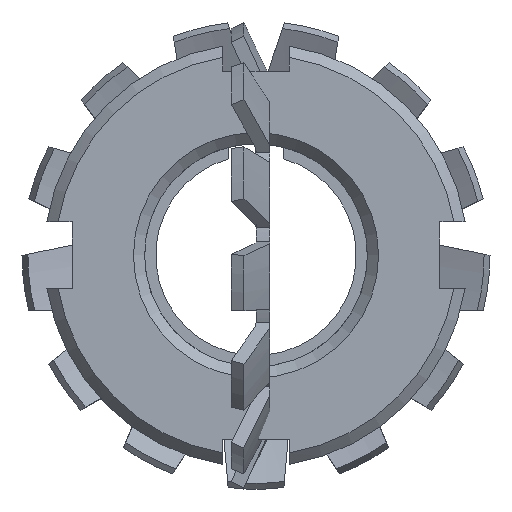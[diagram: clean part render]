
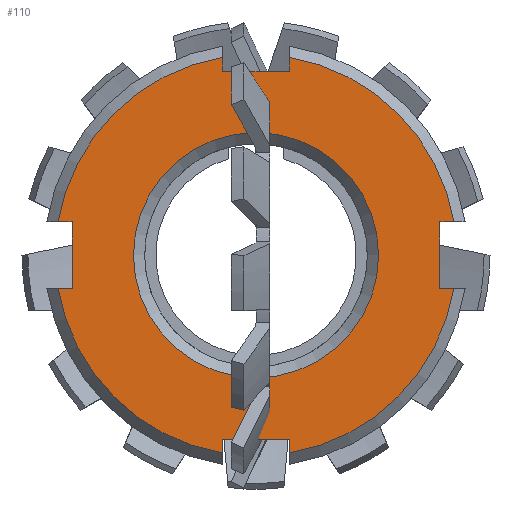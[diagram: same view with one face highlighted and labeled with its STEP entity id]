
A CAD part, front view. The second image highlights one B-rep face of the part: STEP entity #110.
In plain terms, the highlighted planar face has unit normal (0, -1, 0).
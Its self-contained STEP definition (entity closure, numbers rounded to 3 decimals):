
#110 = ADVANCED_FACE( '', ( #225, #226 ), #227, .F. );
#225 = FACE_BOUND( '', #355, .T. );
#226 = FACE_OUTER_BOUND( '', #356, .T. );
#227 = PLANE( '', #357 );
#355 = EDGE_LOOP( '', ( #655 ) );
#356 = EDGE_LOOP( '', ( #656, #657, #658, #659, #660, #661, #662, #663, #664, #665, #666, #667, #668, #669, #670, #671 ) );
#357 = AXIS2_PLACEMENT_3D( '', #672, #673, #674 );
#655 = ORIENTED_EDGE( '', *, *, #1065, .F. );
#656 = ORIENTED_EDGE( '', *, *, #1086, .F. );
#657 = ORIENTED_EDGE( '', *, *, #1058, .T. );
#658 = ORIENTED_EDGE( '', *, *, #1013, .T. );
#659 = ORIENTED_EDGE( '', *, *, #1087, .T. );
#660 = ORIENTED_EDGE( '', *, *, #1088, .F. );
#661 = ORIENTED_EDGE( '', *, *, #1047, .T. );
#662 = ORIENTED_EDGE( '', *, *, #1019, .T. );
#663 = ORIENTED_EDGE( '', *, *, #1035, .T. );
#664 = ORIENTED_EDGE( '', *, *, #1040, .F. );
#665 = ORIENTED_EDGE( '', *, *, #1089, .T. );
#666 = ORIENTED_EDGE( '', *, *, #1067, .T. );
#667 = ORIENTED_EDGE( '', *, *, #1045, .T. );
#668 = ORIENTED_EDGE( '', *, *, #1090, .F. );
#669 = ORIENTED_EDGE( '', *, *, #1091, .T. );
#670 = ORIENTED_EDGE( '', *, *, #1092, .T. );
#671 = ORIENTED_EDGE( '', *, *, #1093, .T. );
#672 = CARTESIAN_POINT( '', ( 0., -7.75, 19. ) );
#673 = DIRECTION( '', ( 0., 1., 0. ) );
#674 = DIRECTION( '', ( 0., 0., 1. ) );
#1013 = EDGE_CURVE( '', #1317, #1315, #1318, .T. );
#1019 = EDGE_CURVE( '', #1328, #1326, #1329, .T. );
#1035 = EDGE_CURVE( '', #1326, #1353, #1355, .F. );
#1040 = EDGE_CURVE( '', #1361, #1353, #1363, .T. );
#1045 = EDGE_CURVE( '', #1366, #1370, #1372, .F. );
#1047 = EDGE_CURVE( '', #1374, #1328, #1375, .T. );
#1058 = EDGE_CURVE( '', #1392, #1317, #1393, .T. );
#1065 = EDGE_CURVE( '', #1402, #1402, #1403, .T. );
#1067 = EDGE_CURVE( '', #1405, #1366, #1406, .T. );
#1086 = EDGE_CURVE( '', #1392, #1435, #1436, .T. );
#1087 = EDGE_CURVE( '', #1315, #1437, #1438, .F. );
#1088 = EDGE_CURVE( '', #1374, #1437, #1439, .T. );
#1089 = EDGE_CURVE( '', #1361, #1405, #1440, .T. );
#1090 = EDGE_CURVE( '', #1441, #1370, #1442, .T. );
#1091 = EDGE_CURVE( '', #1441, #1443, #1444, .T. );
#1092 = EDGE_CURVE( '', #1443, #1445, #1446, .T. );
#1093 = EDGE_CURVE( '', #1445, #1435, #1447, .F. );
#1315 = VERTEX_POINT( '', #2251 );
#1317 = VERTEX_POINT( '', #2256 );
#1318 = LINE( '', #2257, #2258 );
#1326 = VERTEX_POINT( '', #2271 );
#1328 = VERTEX_POINT( '', #2276 );
#1329 = LINE( '', #2277, #2278 );
#1353 = VERTEX_POINT( '', #2312 );
#1355 = CIRCLE( '', #2317, 18. );
#1361 = VERTEX_POINT( '', #2327 );
#1363 = LINE( '', #2330, #2331 );
#1366 = VERTEX_POINT( '', #2334 );
#1370 = VERTEX_POINT( '', #2341 );
#1372 = CIRCLE( '', #2346, 18. );
#1374 = VERTEX_POINT( '', #2348 );
#1375 = LINE( '', #2349, #2350 );
#1392 = VERTEX_POINT( '', #2378 );
#1393 = LINE( '', #2379, #2380 );
#1402 = VERTEX_POINT( '', #2397 );
#1403 = CIRCLE( '', #2398, 11. );
#1405 = VERTEX_POINT( '', #2400 );
#1406 = LINE( '', #2401, #2402 );
#1435 = VERTEX_POINT( '', #2465 );
#1436 = LINE( '', #2466, #2467 );
#1437 = VERTEX_POINT( '', #2468 );
#1438 = CIRCLE( '', #2469, 18. );
#1439 = LINE( '', #2470, #2471 );
#1440 = LINE( '', #2472, #2473 );
#1441 = VERTEX_POINT( '', #2474 );
#1442 = LINE( '', #2475, #2476 );
#1443 = VERTEX_POINT( '', #2477 );
#1444 = LINE( '', #2478, #2479 );
#1445 = VERTEX_POINT( '', #2480 );
#1446 = LINE( '', #2481, #2482 );
#1447 = CIRCLE( '', #2483, 18. );
#2251 = CARTESIAN_POINT( '', ( -17.748, -7.75, -3. ) );
#2256 = CARTESIAN_POINT( '', ( -16.5, -7.75, -3. ) );
#2257 = CARTESIAN_POINT( '', ( -19., -7.75, -3. ) );
#2258 = VECTOR( '', #2816, 1000. );
#2271 = CARTESIAN_POINT( '', ( 3., -7.75, -17.748 ) );
#2276 = CARTESIAN_POINT( '', ( 3., -7.75, -16.5 ) );
#2277 = CARTESIAN_POINT( '', ( 3., -7.75, -19. ) );
#2278 = VECTOR( '', #2819, 1000. );
#2312 = CARTESIAN_POINT( '', ( 17.748, -7.75, -3. ) );
#2317 = AXIS2_PLACEMENT_3D( '', #2836, #2837, #2838 );
#2327 = CARTESIAN_POINT( '', ( 16.5, -7.75, -3. ) );
#2330 = CARTESIAN_POINT( '', ( 19., -7.75, -3. ) );
#2331 = VECTOR( '', #2841, 1000. );
#2334 = CARTESIAN_POINT( '', ( 17.748, -7.75, 3. ) );
#2341 = CARTESIAN_POINT( '', ( 3., -7.75, 17.748 ) );
#2346 = AXIS2_PLACEMENT_3D( '', #2845, #2846, #2847 );
#2348 = CARTESIAN_POINT( '', ( -3., -7.75, -16.5 ) );
#2349 = CARTESIAN_POINT( '', ( -3., -7.75, -16.5 ) );
#2350 = VECTOR( '', #2848, 1000. );
#2378 = CARTESIAN_POINT( '', ( -16.5, -7.75, 3. ) );
#2379 = CARTESIAN_POINT( '', ( -16.5, -7.75, 3. ) );
#2380 = VECTOR( '', #2862, 1000. );
#2397 = CARTESIAN_POINT( '', ( 0., -7.75, -11. ) );
#2398 = AXIS2_PLACEMENT_3D( '', #2870, #2871, #2872 );
#2400 = CARTESIAN_POINT( '', ( 16.5, -7.75, 3. ) );
#2401 = CARTESIAN_POINT( '', ( 19., -7.75, 3. ) );
#2402 = VECTOR( '', #2873, 1000. );
#2465 = CARTESIAN_POINT( '', ( -17.748, -7.75, 3. ) );
#2466 = CARTESIAN_POINT( '', ( -19., -7.75, 3. ) );
#2467 = VECTOR( '', #2888, 1000. );
#2468 = CARTESIAN_POINT( '', ( -3., -7.75, -17.748 ) );
#2469 = AXIS2_PLACEMENT_3D( '', #2889, #2890, #2891 );
#2470 = CARTESIAN_POINT( '', ( -3., -7.75, -19. ) );
#2471 = VECTOR( '', #2892, 1000. );
#2472 = CARTESIAN_POINT( '', ( 16.5, -7.75, -3. ) );
#2473 = VECTOR( '', #2893, 1000. );
#2474 = CARTESIAN_POINT( '', ( 3., -7.75, 16.5 ) );
#2475 = CARTESIAN_POINT( '', ( 3., -7.75, 19. ) );
#2476 = VECTOR( '', #2894, 1000. );
#2477 = CARTESIAN_POINT( '', ( -3., -7.75, 16.5 ) );
#2478 = CARTESIAN_POINT( '', ( 3., -7.75, 16.5 ) );
#2479 = VECTOR( '', #2895, 1000. );
#2480 = CARTESIAN_POINT( '', ( -3., -7.75, 17.748 ) );
#2481 = CARTESIAN_POINT( '', ( -3., -7.75, 19. ) );
#2482 = VECTOR( '', #2896, 1000. );
#2483 = AXIS2_PLACEMENT_3D( '', #2897, #2898, #2899 );
#2816 = DIRECTION( '', ( -1., 0., 0. ) );
#2819 = DIRECTION( '', ( 0., 0., -1. ) );
#2836 = CARTESIAN_POINT( '', ( 0., -7.75, 0. ) );
#2837 = DIRECTION( '', ( 0., 1., 0. ) );
#2838 = DIRECTION( '', ( 0., 0., 1. ) );
#2841 = DIRECTION( '', ( 1., 0., 0. ) );
#2845 = CARTESIAN_POINT( '', ( 0., -7.75, 0. ) );
#2846 = DIRECTION( '', ( 0., 1., 0. ) );
#2847 = DIRECTION( '', ( 0., 0., 1. ) );
#2848 = DIRECTION( '', ( 1., 0., 0. ) );
#2862 = DIRECTION( '', ( 0., 0., -1. ) );
#2870 = CARTESIAN_POINT( '', ( 0., -7.75, 0. ) );
#2871 = DIRECTION( '', ( 0., -1., 0. ) );
#2872 = DIRECTION( '', ( 0., 0., -1. ) );
#2873 = DIRECTION( '', ( 1., 0., 0. ) );
#2888 = DIRECTION( '', ( -1., 0., 0. ) );
#2889 = CARTESIAN_POINT( '', ( 0., -7.75, 0. ) );
#2890 = DIRECTION( '', ( 0., 1., 0. ) );
#2891 = DIRECTION( '', ( 0., 0., 1. ) );
#2892 = DIRECTION( '', ( 0., 0., -1. ) );
#2893 = DIRECTION( '', ( 0., 0., 1. ) );
#2894 = DIRECTION( '', ( 0., 0., 1. ) );
#2895 = DIRECTION( '', ( -1., 0., 0. ) );
#2896 = DIRECTION( '', ( 0., 0., 1. ) );
#2897 = CARTESIAN_POINT( '', ( 0., -7.75, 0. ) );
#2898 = DIRECTION( '', ( 0., 1., 0. ) );
#2899 = DIRECTION( '', ( 0., 0., 1. ) );
